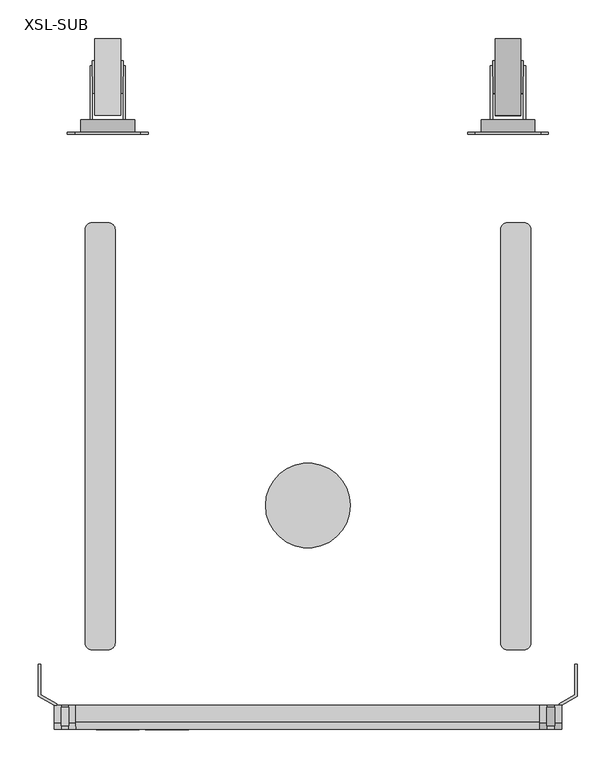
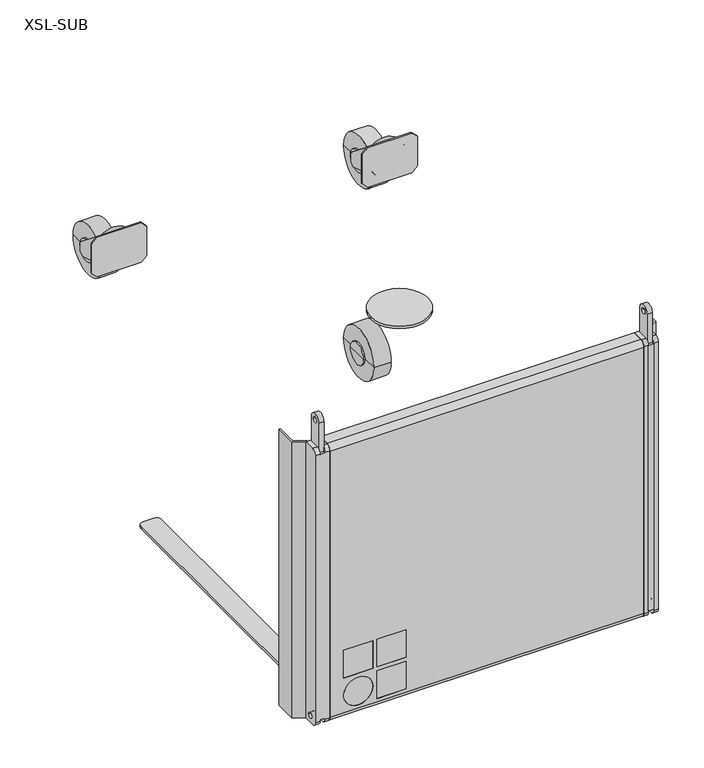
"""IFC4 building model written with IfcOpenShell, lengths in millimetres: proxy geometry, d&b SL-Series XSL-SUB : XSL-SUB."""

from ifc_helpers import new_model, si_unit, point, frame, frame_2d, origin, origin_with_axes, place, context, project, spatial, polyline, circle_curve, trimmed, segment, composite_curve, outline, extrude, source, transform, mapped, element, save
from ifc_brep_helpers import plane_surface, cylinder_surface, revolved_surface, advanced_brep


def xsl_sub_8213218d(model_context):
    return source(origin(), model_context, "Body", "SolidModel", [
        advanced_brep(
        [(2743.3232422, 736.9067763, 49.9678867), (2743.3232422, 836.9067763, 49.9678867), (2776.6767578, 836.9067763, 49.9678867), (2776.6767578, 736.9067763, 49.9678867), (2743.3232422, 765.493179, 49.9678867), (2743.3232422, 808.3203735, 49.9678867), (2740.0, 765.493179, 49.9678867), (2740.0, 808.3203735, 49.9678867), (2740.0, 786.9067763, 49.9678867), (2780.0, 765.493179, 49.9678867), (2780.0, 808.3203735, 49.9678867), (2780.0, 786.9067763, 49.9678867), (2776.6767578, 765.493179, 49.9678867), (2776.6767578, 808.3203735, 49.9678867)],
        [
            (0, 1, circle_curve(frame((2743.3232422, 786.9067763, 49.9678867), z_axis=(1.0, 0.0, 0.0), x_axis=(0.0, 1.0, 0.0)), 50.0)),
            (1, 2),
            (2, 3, circle_curve(frame((2776.6767578, 786.9067763, 49.9678867), z_axis=(-1.0, 0.0, 0.0), x_axis=(0.0, 1.0, 0.0)), 50.0)),
            (3, 0),
            (1, 0, circle_curve(frame((2743.3232422, 786.9067763, 49.9678867), z_axis=(1.0, 0.0, 0.0), x_axis=(0.0, 1.0, 0.0)), 50.0)),
            (3, 2, circle_curve(frame((2776.6767578, 786.9067763, 49.9678867), z_axis=(-1.0, 0.0, 0.0), x_axis=(0.0, 1.0, 0.0)), 50.0)),
            (4, 5, circle_curve(frame((2743.3232422, 786.9067763, 49.9678867), z_axis=(1.0, 0.0, 0.0), x_axis=(0.0, 1.0, 0.0)), 21.4135972)),
            (5, 1),
            (0, 4),
            (5, 4, circle_curve(frame((2743.3232422, 786.9067763, 49.9678867), z_axis=(1.0, 0.0, 0.0), x_axis=(0.0, 1.0, 0.0)), 21.4135972)),
            (6, 7, circle_curve(frame((2740.0, 786.9067763, 49.9678867), z_axis=(1.0, 0.0, 0.0), x_axis=(0.0, 1.0, 0.0)), 21.4135972)),
            (7, 5),
            (4, 6),
            (7, 6, circle_curve(frame((2740.0, 786.9067763, 49.9678867), z_axis=(1.0, 0.0, 0.0), x_axis=(0.0, 1.0, 0.0)), 21.4135972)),
            (8, 7),
            (6, 8),
            (9, 10, circle_curve(frame((2780.0, 786.9067763, 49.9678867), z_axis=(1.0, 0.0, 0.0), x_axis=(0.0, 1.0, 0.0)), 21.4135972)),
            (10, 11),
            (11, 9),
            (10, 9, circle_curve(frame((2780.0, 786.9067763, 49.9678867), z_axis=(1.0, 0.0, 0.0), x_axis=(0.0, 1.0, 0.0)), 21.4135972)),
            (12, 13, circle_curve(frame((2776.6767578, 786.9067763, 49.9678867), z_axis=(1.0, 0.0, 0.0), x_axis=(0.0, 1.0, 0.0)), 21.4135972)),
            (13, 10),
            (9, 12),
            (13, 12, circle_curve(frame((2776.6767578, 786.9067763, 49.9678867), z_axis=(1.0, 0.0, 0.0), x_axis=(0.0, 1.0, 0.0)), 21.4135972)),
            (2, 13),
            (12, 3),
        ],
        [
            cylinder_surface(frame((2717.0567457, 786.9067763, 49.9678867), z_axis=(-1.0, 0.0, 0.0), x_axis=(0.0, 1.0, 0.0)), 50.0),
            plane_surface(frame((2743.3232422, 786.9067763, 49.9678867), z_axis=(-1.0, 0.0, 0.0), x_axis=(0.0, 1.0, 0.0))),
            cylinder_surface(frame((2717.0567457, 786.9067763, 49.9678867), z_axis=(-1.0, 0.0, 0.0), x_axis=(0.0, 1.0, 0.0)), 21.4135972),
            plane_surface(frame((2740.0, 786.9067763, 49.9678867), z_axis=(-1.0, 0.0, 0.0), x_axis=(0.0, 1.0, 0.0))),
            plane_surface(frame((2780.0, 786.9067763, 49.9678867), z_axis=(1.0, 0.0, 0.0), x_axis=(0.0, 1.0, 0.0))),
            plane_surface(frame((2776.6767578, 786.9067763, 49.9678867), z_axis=(1.0, 0.0, 0.0), x_axis=(0.0, 1.0, 0.0))),
        ],
        [
            (0, [[1, 2, 3, 4]]),
            (0, [[5, -4, 6, -2]]),
            (1, [[7, 8, -1, 9]]),
            (1, [[10, -9, -5, -8]]),
            (2, [[11, 12, -7, 13]]),
            (2, [[14, -13, -10, -12]]),
            (3, [[15, -11, 16]]),
            (3, [[-16, -14, -15]]),
            (4, [[17, 18, 19]]),
            (4, [[20, -19, -18]]),
            (2, [[21, 22, -17, 23]]),
            (2, [[24, -23, -20, -22]]),
            (5, [[-3, 25, -21, 26]]),
            (5, [[-6, -26, -24, -25]]),
        ],
    ),
        advanced_brep(
        [(2275.0, 731.2505973, 480.499962), (2263.0, 731.2505973, 454.1181501), (2263.0, 731.2505973, 506.5781491), (2260.0, 731.2505973, 506.5781491), (2260.0, 731.2505973, 451.7771488), (2220.0, 731.2505973, 451.7771488), (2220.0, 731.2505973, 506.5781491), (2217.0, 731.2505973, 506.5781491), (2217.0, 731.2505973, 454.1181501), (2205.0, 731.2505973, 480.499962), (2205.0, 715.2505973, 480.499962), (2217.0, 715.2505973, 454.1181501), (2217.0, 715.2505973, 445.67524), (2220.0, 715.2505973, 445.67524), (2220.0, 715.2505973, 451.7771488), (2260.0, 715.2505973, 451.7771488), (2260.0, 715.2505973, 445.67524), (2263.0, 715.2505973, 445.67524), (2263.0, 715.2505973, 454.1181501), (2275.0, 715.2505973, 480.499962), (2263.0, 729.9505973, 445.67524), (2263.0, 794.4505973, 425.499962), (2263.0, 801.4505973, 432.499962), (2263.0, 801.4505973, 450.6264244), (2260.0, 801.4505973, 450.6264244), (2260.0, 801.4505973, 432.499962), (2260.0, 794.4505973, 425.499962), (2260.0, 729.9505973, 445.67524), (2217.0, 801.4505973, 450.6264244), (2217.0, 801.4505973, 432.499962), (2217.0, 794.4505973, 425.499962), (2217.0, 729.9505973, 445.67524), (2220.0, 729.9505973, 445.67524), (2220.0, 794.4505973, 425.499962), (2220.0, 801.4505973, 432.499962), (2220.0, 801.4505973, 450.6264244)],
        [
            (0, 1, circle_curve(frame((2240.0, 731.2505973, 480.499962), z_axis=(0.0, 1.0, 0.0), x_axis=(1.0, 0.0, 0.0)), 35.0)),
            (1, 2),
            (2, 3),
            (3, 4),
            (4, 5, circle_curve(frame((2240.0, 731.2505973, 480.499962), z_axis=(0.0, 1.0, 0.0), x_axis=(1.0, 0.0, 0.0)), 35.0)),
            (5, 6),
            (6, 7),
            (7, 8),
            (8, 9, circle_curve(frame((2240.0, 731.2505973, 480.499962), z_axis=(0.0, 1.0, 0.0), x_axis=(1.0, 0.0, 0.0)), 35.0)),
            (9, 0, circle_curve(frame((2240.0, 731.2505973, 480.499962), z_axis=(0.0, 1.0, 0.0), x_axis=(1.0, 0.0, 0.0)), 35.0)),
            (10, 11, circle_curve(frame((2240.0, 715.2505973, 480.499962), z_axis=(0.0, -1.0, 0.0), x_axis=(1.0, 0.0, 0.0)), 35.0)),
            (11, 12),
            (12, 13),
            (13, 14),
            (14, 15, circle_curve(frame((2240.0, 715.2505973, 480.499962), z_axis=(0.0, -1.0, 0.0), x_axis=(1.0, 0.0, 0.0)), 35.0)),
            (15, 16),
            (16, 17),
            (17, 18),
            (18, 19, circle_curve(frame((2240.0, 715.2505973, 480.499962), z_axis=(0.0, -1.0, 0.0), x_axis=(1.0, 0.0, 0.0)), 35.0)),
            (19, 10, circle_curve(frame((2240.0, 715.2505973, 480.499962), z_axis=(0.0, -1.0, 0.0), x_axis=(1.0, 0.0, 0.0)), 35.0)),
            (8, 11),
            (10, 9),
            (14, 5),
            (4, 15),
            (18, 1),
            (0, 19),
            (17, 20),
            (20, 21),
            (21, 22),
            (22, 23),
            (23, 2),
            (3, 24),
            (24, 25),
            (25, 26),
            (26, 27),
            (27, 16),
            (23, 24),
            (22, 25),
            (21, 26),
            (20, 27),
            (7, 28),
            (28, 29),
            (29, 30),
            (30, 31),
            (31, 12),
            (13, 32),
            (32, 33),
            (33, 34),
            (34, 35),
            (35, 6),
            (35, 28),
            (34, 29),
            (33, 30),
            (32, 31),
        ],
        [
            plane_surface(frame((2275.0, 731.2505973, 480.499962), z_axis=(0.0, 1.0, 0.0), x_axis=(0.0, 0.0, 1.0))),
            plane_surface(frame((2275.0, 715.2505973, 480.499962), z_axis=(0.0, -1.0, 0.0), x_axis=(0.0, 0.0, -1.0))),
            cylinder_surface(frame((2240.0, 715.2505973, 480.499962), z_axis=(0.0, 1.0, 0.0), x_axis=(1.0, 0.0, 0.0)), 35.0),
            plane_surface(frame((2263.0, 785.1202866, 463.6422228), z_axis=(1.0000000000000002, 0.0, 0.0), x_axis=(0.0, 0.7819992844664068, -0.6232793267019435))),
            plane_surface(frame((2260.0, 785.1202866, 463.6422228), z_axis=(-1.0000000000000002, 0.0, 0.0), x_axis=(0.0, -0.7819992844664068, 0.6232793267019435))),
            plane_surface(frame((2263.0, 731.2505973, 506.5781491), z_axis=(0.0, 0.6232793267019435, 0.7819992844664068), x_axis=(-1.0, 0.0, 0.0))),
            plane_surface(frame((2263.0, 801.4505973, 450.6264244), z_axis=(0.0, 1.0, 0.0), x_axis=(-1.0, 0.0, 0.0))),
            plane_surface(frame((2263.0, 801.4505973, 432.499962), z_axis=(0.0, 0.7071067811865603, -0.7071067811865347), x_axis=(-1.0, 0.0, 0.0))),
            plane_surface(frame((2263.0, 794.4505973, 425.499962), z_axis=(0.0, -0.29853148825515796, -0.9543997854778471), x_axis=(-1.0, 0.0, 0.0))),
            plane_surface(frame((2263.0, 729.9505973, 445.67524), z_axis=(0.0, 0.0, -1.0), x_axis=(-1.0, 0.0, 0.0))),
            plane_surface(frame((2217.0, 731.2505973, 506.5781491), z_axis=(-1.0, 0.0, 0.0), x_axis=(0.0, -1.0, 0.0))),
            plane_surface(frame((2220.0, 731.2505973, 506.5781491), z_axis=(1.0, 0.0, 0.0), x_axis=(0.0, 1.0, 0.0))),
            plane_surface(frame((2217.0, 801.4505973, 450.6264244), z_axis=(0.0, 0.6232793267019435, 0.7819992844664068), x_axis=(1.0, 0.0, 0.0))),
            plane_surface(frame((2217.0, 801.4505973, 432.499962), z_axis=(0.0, 1.0, 0.0), x_axis=(1.0, 0.0, 0.0))),
            plane_surface(frame((2217.0, 794.4505973, 425.499962), z_axis=(0.0, 0.7071067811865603, -0.7071067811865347), x_axis=(1.0, 0.0, 0.0))),
            plane_surface(frame((2217.0, 729.9505973, 445.67524), z_axis=(0.0, -0.29853148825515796, -0.9543997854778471), x_axis=(1.0, 0.0, 0.0))),
            plane_surface(frame((2217.0, 715.2505973, 445.67524), z_axis=(0.0, 0.0, -1.0), x_axis=(1.0, 0.0, 0.0))),
        ],
        [
            (0, [[1, 2, 3, 4, 5, 6, 7, 8, 9, 10]]),
            (1, [[11, 12, 13, 14, 15, 16, 17, 18, 19, 20]]),
            (2, [[-9, 21, -11, 22]]),
            (2, [[-15, 23, -5, 24]]),
            (2, [[-19, 25, -1, 26]]),
            (2, [[-22, -20, -26, -10]]),
            (3, [[-2, -25, -18, 27, 28, 29, 30, 31]]),
            (4, [[-16, -24, -4, 32, 33, 34, 35, 36]]),
            (5, [[37, -32, -3, -31]]),
            (6, [[38, -33, -37, -30]]),
            (7, [[39, -34, -38, -29]]),
            (8, [[40, -35, -39, -28]]),
            (9, [[-17, -36, -40, -27]]),
            (10, [[-12, -21, -8, 41, 42, 43, 44, 45]]),
            (11, [[-6, -23, -14, 46, 47, 48, 49, 50]]),
            (12, [[-7, -50, 51, -41]]),
            (13, [[-51, -49, 52, -42]]),
            (14, [[-52, -48, 53, -43]]),
            (15, [[-53, -47, 54, -44]]),
            (16, [[-54, -46, -13, -45]]),
        ],
    ),
        extrude(outline(polyline([(520.5, 2197.500038), (510.499962, 2187.5), (450.499962, 2187.5), (440.499924, 2197.500038), (440.499924, 2282.499962), (450.499962, 2292.5), (510.499962, 2292.5), (520.5, 2282.499962), (520.5, 2197.500038)])), frame((0.0, 712.2505973, 0.0), z_axis=(0.0, 1.0, 0.0), x_axis=(0.0, 0.0, 1.0)), (0.0, 0.0, 1.0), 3.0),
        advanced_brep(
        [(2256.6767578, 736.9067763, 440.9678867), (2223.3232422, 736.9067763, 440.9678867), (2223.3232422, 836.9067763, 440.9678867), (2256.6767578, 836.9067763, 440.9678867), (2256.6767578, 765.493179, 440.9678867), (2256.6767578, 808.3203735, 440.9678867), (2260.0, 765.493179, 440.9678867), (2260.0, 808.3203735, 440.9678867), (2260.0, 786.9067763, 440.9678867), (2220.0, 765.493179, 440.9678867), (2220.0, 786.9067763, 440.9678867), (2220.0, 808.3203735, 440.9678867), (2223.3232422, 765.493179, 440.9678867), (2223.3232422, 808.3203735, 440.9678867)],
        [
            (0, 1),
            (1, 2, circle_curve(frame((2223.3232422, 786.9067763, 440.9678867), z_axis=(1.0, 0.0, 0.0), x_axis=(0.0, 1.0, 0.0)), 50.0)),
            (2, 3),
            (3, 0, circle_curve(frame((2256.6767578, 786.9067763, 440.9678867), z_axis=(-1.0, 0.0, 0.0), x_axis=(0.0, 1.0, 0.0)), 50.0)),
            (2, 1, circle_curve(frame((2223.3232422, 786.9067763, 440.9678867), z_axis=(1.0, 0.0, 0.0), x_axis=(0.0, 1.0, 0.0)), 50.0)),
            (0, 3, circle_curve(frame((2256.6767578, 786.9067763, 440.9678867), z_axis=(-1.0, 0.0, 0.0), x_axis=(0.0, 1.0, 0.0)), 50.0)),
            (4, 0),
            (3, 5),
            (5, 4, circle_curve(frame((2256.6767578, 786.9067763, 440.9678867), z_axis=(-1.0, 0.0, 0.0), x_axis=(0.0, 1.0, 0.0)), 21.4135972)),
            (4, 5, circle_curve(frame((2256.6767578, 786.9067763, 440.9678867), z_axis=(-1.0, 0.0, 0.0), x_axis=(0.0, 1.0, 0.0)), 21.4135972)),
            (6, 4),
            (5, 7),
            (7, 6, circle_curve(frame((2260.0, 786.9067763, 440.9678867), z_axis=(-1.0, 0.0, 0.0), x_axis=(0.0, 1.0, 0.0)), 21.4135972)),
            (6, 7, circle_curve(frame((2260.0, 786.9067763, 440.9678867), z_axis=(-1.0, 0.0, 0.0), x_axis=(0.0, 1.0, 0.0)), 21.4135972)),
            (8, 6),
            (7, 8),
            (9, 10),
            (10, 11),
            (11, 9, circle_curve(frame((2220.0, 786.9067763, 440.9678867), z_axis=(-1.0, 0.0, 0.0), x_axis=(0.0, 1.0, 0.0)), 21.4135972)),
            (9, 11, circle_curve(frame((2220.0, 786.9067763, 440.9678867), z_axis=(-1.0, 0.0, 0.0), x_axis=(0.0, 1.0, 0.0)), 21.4135972)),
            (12, 9),
            (11, 13),
            (13, 12, circle_curve(frame((2223.3232422, 786.9067763, 440.9678867), z_axis=(-1.0, 0.0, 0.0), x_axis=(0.0, 1.0, 0.0)), 21.4135972)),
            (12, 13, circle_curve(frame((2223.3232422, 786.9067763, 440.9678867), z_axis=(-1.0, 0.0, 0.0), x_axis=(0.0, 1.0, 0.0)), 21.4135972)),
            (1, 12),
            (13, 2),
        ],
        [
            cylinder_surface(frame((2282.9432543, 786.9067763, 440.9678867), z_axis=(1.0, 0.0, 0.0), x_axis=(0.0, 1.0, 0.0)), 50.0),
            plane_surface(frame((2256.6767578, 786.9067763, 440.9678867), z_axis=(1.0, 0.0, 0.0), x_axis=(0.0, 1.0, 0.0))),
            cylinder_surface(frame((2282.9432543, 786.9067763, 440.9678867), z_axis=(1.0, 0.0, 0.0), x_axis=(0.0, 1.0, 0.0)), 21.4135972),
            plane_surface(frame((2260.0, 786.9067763, 440.9678867), z_axis=(1.0, 0.0, 0.0), x_axis=(0.0, 1.0, 0.0))),
            plane_surface(frame((2220.0, 786.9067763, 440.9678867), z_axis=(-1.0, 0.0, 0.0), x_axis=(0.0, 1.0, 0.0))),
            plane_surface(frame((2223.3232422, 786.9067763, 440.9678867), z_axis=(-1.0, 0.0, 0.0), x_axis=(0.0, 1.0, 0.0))),
        ],
        [
            (0, [[1, 2, 3, 4]]),
            (0, [[-3, 5, -1, 6]]),
            (1, [[7, -4, 8, 9]]),
            (1, [[-8, -6, -7, 10]]),
            (2, [[11, -9, 12, 13]]),
            (2, [[-12, -10, -11, 14]]),
            (3, [[15, -13, 16]]),
            (3, [[-16, -14, -15]]),
            (4, [[17, 18, 19]]),
            (4, [[-18, -17, 20]]),
            (2, [[21, -19, 22, 23]]),
            (2, [[-22, -20, -21, 24]]),
            (5, [[25, -23, 26, -2]]),
            (5, [[-26, -24, -25, -5]]),
        ],
    ),
        advanced_brep(
        [(2725.0, 731.2505973, 480.499962), (2795.0, 731.2505973, 480.499962), (2783.0, 731.2505973, 454.1181501), (2783.0, 731.2505973, 506.5781491), (2780.0, 731.2505973, 506.5781491), (2780.0, 731.2505973, 451.7771488), (2740.0, 731.2505973, 451.7771488), (2740.0, 731.2505973, 506.5781491), (2737.0, 731.2505973, 506.5781491), (2737.0, 731.2505973, 454.1181501), (2795.0, 715.2505973, 480.499962), (2725.0, 715.2505973, 480.499962), (2737.0, 715.2505973, 454.1181501), (2737.0, 715.2505973, 445.67524), (2740.0, 715.2505973, 445.67524), (2740.0, 715.2505973, 451.7771488), (2780.0, 715.2505973, 451.7771488), (2780.0, 715.2505973, 445.67524), (2783.0, 715.2505973, 445.67524), (2783.0, 715.2505973, 454.1181501), (2737.0, 801.4505973, 450.6264244), (2737.0, 801.4505973, 432.499962), (2737.0, 794.4505973, 425.499962), (2737.0, 729.9505973, 445.67524), (2740.0, 729.9505973, 445.67524), (2740.0, 794.4505973, 425.499962), (2740.0, 801.4505973, 432.499962), (2740.0, 801.4505973, 450.6264244), (2783.0, 729.9505973, 445.67524), (2783.0, 794.4505973, 425.499962), (2783.0, 801.4505973, 432.499962), (2783.0, 801.4505973, 450.6264244), (2780.0, 801.4505973, 450.6264244), (2780.0, 801.4505973, 432.499962), (2780.0, 794.4505973, 425.499962), (2780.0, 729.9505973, 445.67524)],
        [
            (0, 1, circle_curve(frame((2760.0, 731.2505973, 480.499962), z_axis=(0.0, 1.0, 0.0), x_axis=(-1.0, 0.0, 0.0)), 35.0)),
            (1, 2, circle_curve(frame((2760.0, 731.2505973, 480.499962), z_axis=(0.0, 1.0, 0.0), x_axis=(-1.0, 0.0, 0.0)), 35.0)),
            (2, 3),
            (3, 4),
            (4, 5),
            (5, 6, circle_curve(frame((2760.0, 731.2505973, 480.499962), z_axis=(0.0, 1.0, 0.0), x_axis=(-1.0, 0.0, 0.0)), 35.0)),
            (6, 7),
            (7, 8),
            (8, 9),
            (9, 0, circle_curve(frame((2760.0, 731.2505973, 480.499962), z_axis=(0.0, 1.0, 0.0), x_axis=(-1.0, 0.0, 0.0)), 35.0)),
            (10, 11, circle_curve(frame((2760.0, 715.2505973, 480.499962), z_axis=(0.0, -1.0, 0.0), x_axis=(-1.0, 0.0, 0.0)), 35.0)),
            (11, 12, circle_curve(frame((2760.0, 715.2505973, 480.499962), z_axis=(0.0, -1.0, 0.0), x_axis=(-1.0, 0.0, 0.0)), 35.0)),
            (12, 13),
            (13, 14),
            (14, 15),
            (15, 16, circle_curve(frame((2760.0, 715.2505973, 480.499962), z_axis=(0.0, -1.0, 0.0), x_axis=(-1.0, 0.0, 0.0)), 35.0)),
            (16, 17),
            (17, 18),
            (18, 19),
            (19, 10, circle_curve(frame((2760.0, 715.2505973, 480.499962), z_axis=(0.0, -1.0, 0.0), x_axis=(-1.0, 0.0, 0.0)), 35.0)),
            (1, 10),
            (19, 2),
            (15, 6),
            (5, 16),
            (11, 0),
            (9, 12),
            (8, 20),
            (20, 21),
            (21, 22),
            (22, 23),
            (23, 13),
            (14, 24),
            (24, 25),
            (25, 26),
            (26, 27),
            (27, 7),
            (27, 20),
            (26, 21),
            (25, 22),
            (24, 23),
            (18, 28),
            (28, 29),
            (29, 30),
            (30, 31),
            (31, 3),
            (4, 32),
            (32, 33),
            (33, 34),
            (34, 35),
            (35, 17),
            (31, 32),
            (30, 33),
            (29, 34),
            (28, 35),
        ],
        [
            plane_surface(frame((2725.0, 731.2505973, 480.499962), z_axis=(0.0, 1.0, 0.0), x_axis=(0.0, 0.0, 1.0))),
            plane_surface(frame((2725.0, 715.2505973, 480.499962), z_axis=(0.0, -1.0, 0.0), x_axis=(0.0, 0.0, -1.0))),
            cylinder_surface(frame((2760.0, 715.2505973, 480.499962), z_axis=(0.0, 1.0, 0.0), x_axis=(-1.0, 0.0, 0.0)), 35.0),
            plane_surface(frame((2737.0, 785.1202866, 463.6422228), z_axis=(-1.0000000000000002, 0.0, 0.0), x_axis=(0.0, 0.7819992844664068, -0.6232793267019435))),
            plane_surface(frame((2740.0, 785.1202866, 463.6422228), z_axis=(1.0000000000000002, 0.0, 0.0), x_axis=(0.0, -0.7819992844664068, 0.6232793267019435))),
            plane_surface(frame((2737.0, 731.2505973, 506.5781491), z_axis=(0.0, 0.6232793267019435, 0.7819992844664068), x_axis=(1.0, 0.0, 0.0))),
            plane_surface(frame((2737.0, 801.4505973, 450.6264244), z_axis=(0.0, 1.0, 0.0), x_axis=(1.0, 0.0, 0.0))),
            plane_surface(frame((2737.0, 801.4505973, 432.499962), z_axis=(0.0, 0.7071067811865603, -0.7071067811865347), x_axis=(1.0, 0.0, 0.0))),
            plane_surface(frame((2737.0, 794.4505973, 425.499962), z_axis=(0.0, -0.29853148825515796, -0.9543997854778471), x_axis=(1.0, 0.0, 0.0))),
            plane_surface(frame((2737.0, 729.9505973, 445.67524), z_axis=(0.0, 0.0, -1.0), x_axis=(1.0, 0.0, 0.0))),
            plane_surface(frame((2783.0, 731.2505973, 506.5781491), z_axis=(1.0, 0.0, 0.0), x_axis=(0.0, -1.0, 0.0))),
            plane_surface(frame((2780.0, 731.2505973, 506.5781491), z_axis=(-1.0, 0.0, 0.0), x_axis=(0.0, 1.0, 0.0))),
            plane_surface(frame((2783.0, 801.4505973, 450.6264244), z_axis=(0.0, 0.6232793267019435, 0.7819992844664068), x_axis=(-1.0, 0.0, 0.0))),
            plane_surface(frame((2783.0, 801.4505973, 432.499962), z_axis=(0.0, 1.0, 0.0), x_axis=(-1.0, 0.0, 0.0))),
            plane_surface(frame((2783.0, 794.4505973, 425.499962), z_axis=(0.0, 0.7071067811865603, -0.7071067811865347), x_axis=(-1.0, 0.0, 0.0))),
            plane_surface(frame((2783.0, 729.9505973, 445.67524), z_axis=(0.0, -0.29853148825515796, -0.9543997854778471), x_axis=(-1.0, 0.0, 0.0))),
            plane_surface(frame((2783.0, 715.2505973, 445.67524), z_axis=(0.0, 0.0, -1.0), x_axis=(-1.0, 0.0, 0.0))),
        ],
        [
            (0, [[1, 2, 3, 4, 5, 6, 7, 8, 9, 10]]),
            (1, [[11, 12, 13, 14, 15, 16, 17, 18, 19, 20]]),
            (2, [[21, -20, 22, -2]]),
            (2, [[23, -6, 24, -16]]),
            (2, [[25, -10, 26, -12]]),
            (2, [[-1, -25, -11, -21]]),
            (3, [[27, 28, 29, 30, 31, -13, -26, -9]]),
            (4, [[32, 33, 34, 35, 36, -7, -23, -15]]),
            (5, [[-27, -8, -36, 37]]),
            (6, [[-28, -37, -35, 38]]),
            (7, [[-29, -38, -34, 39]]),
            (8, [[-30, -39, -33, 40]]),
            (9, [[-31, -40, -32, -14]]),
            (10, [[41, 42, 43, 44, 45, -3, -22, -19]]),
            (11, [[46, 47, 48, 49, 50, -17, -24, -5]]),
            (12, [[-45, 51, -46, -4]]),
            (13, [[-44, 52, -47, -51]]),
            (14, [[-43, 53, -48, -52]]),
            (15, [[-42, 54, -49, -53]]),
            (16, [[-41, -18, -50, -54]]),
        ],
    ),
        extrude(outline(polyline([(520.5, 2802.499962), (520.5, 2717.500038), (510.499962, 2707.5), (450.499962, 2707.5), (440.499924, 2717.500038), (440.499924, 2802.499962), (450.499962, 2812.5), (510.499962, 2812.5), (520.5, 2802.499962)])), frame((0.0, 712.2505973, 0.0), z_axis=(0.0, 1.0, 0.0), x_axis=(0.0, 0.0, 1.0)), (0.0, 0.0, 1.0), 3.0),
        advanced_brep(
        [(2743.3232422, 736.9067763, 440.9678867), (2743.3232422, 836.9067763, 440.9678867), (2776.6767578, 836.9067763, 440.9678867), (2776.6767578, 736.9067763, 440.9678867), (2743.3232422, 765.493179, 440.9678867), (2743.3232422, 808.3203735, 440.9678867), (2740.0, 765.493179, 440.9678867), (2740.0, 808.3203735, 440.9678867), (2740.0, 786.9067763, 440.9678867), (2780.0, 765.493179, 440.9678867), (2780.0, 808.3203735, 440.9678867), (2780.0, 786.9067763, 440.9678867), (2776.6767578, 765.493179, 440.9678867), (2776.6767578, 808.3203735, 440.9678867)],
        [
            (0, 1, circle_curve(frame((2743.3232422, 786.9067763, 440.9678867), z_axis=(1.0, 0.0, 0.0), x_axis=(0.0, 1.0, 0.0)), 50.0)),
            (1, 2),
            (2, 3, circle_curve(frame((2776.6767578, 786.9067763, 440.9678867), z_axis=(-1.0, 0.0, 0.0), x_axis=(0.0, 1.0, 0.0)), 50.0)),
            (3, 0),
            (1, 0, circle_curve(frame((2743.3232422, 786.9067763, 440.9678867), z_axis=(1.0, 0.0, 0.0), x_axis=(0.0, 1.0, 0.0)), 50.0)),
            (3, 2, circle_curve(frame((2776.6767578, 786.9067763, 440.9678867), z_axis=(-1.0, 0.0, 0.0), x_axis=(0.0, 1.0, 0.0)), 50.0)),
            (4, 5, circle_curve(frame((2743.3232422, 786.9067763, 440.9678867), z_axis=(1.0, 0.0, 0.0), x_axis=(0.0, 1.0, 0.0)), 21.4135972)),
            (5, 1),
            (0, 4),
            (5, 4, circle_curve(frame((2743.3232422, 786.9067763, 440.9678867), z_axis=(1.0, 0.0, 0.0), x_axis=(0.0, 1.0, 0.0)), 21.4135972)),
            (6, 7, circle_curve(frame((2740.0, 786.9067763, 440.9678867), z_axis=(1.0, 0.0, 0.0), x_axis=(0.0, 1.0, 0.0)), 21.4135972)),
            (7, 5),
            (4, 6),
            (7, 6, circle_curve(frame((2740.0, 786.9067763, 440.9678867), z_axis=(1.0, 0.0, 0.0), x_axis=(0.0, 1.0, 0.0)), 21.4135972)),
            (8, 7),
            (6, 8),
            (9, 10, circle_curve(frame((2780.0, 786.9067763, 440.9678867), z_axis=(1.0, 0.0, 0.0), x_axis=(0.0, 1.0, 0.0)), 21.4135972)),
            (10, 11),
            (11, 9),
            (10, 9, circle_curve(frame((2780.0, 786.9067763, 440.9678867), z_axis=(1.0, 0.0, 0.0), x_axis=(0.0, 1.0, 0.0)), 21.4135972)),
            (12, 13, circle_curve(frame((2776.6767578, 786.9067763, 440.9678867), z_axis=(1.0, 0.0, 0.0), x_axis=(0.0, 1.0, 0.0)), 21.4135972)),
            (13, 10),
            (9, 12),
            (13, 12, circle_curve(frame((2776.6767578, 786.9067763, 440.9678867), z_axis=(1.0, 0.0, 0.0), x_axis=(0.0, 1.0, 0.0)), 21.4135972)),
            (2, 13),
            (12, 3),
        ],
        [
            cylinder_surface(frame((2717.0567457, 786.9067763, 440.9678867), z_axis=(-1.0, 0.0, 0.0), x_axis=(0.0, 1.0, 0.0)), 50.0),
            plane_surface(frame((2743.3232422, 786.9067763, 440.9678867), z_axis=(-1.0, 0.0, 0.0), x_axis=(0.0, 1.0, 0.0))),
            cylinder_surface(frame((2717.0567457, 786.9067763, 440.9678867), z_axis=(-1.0, 0.0, 0.0), x_axis=(0.0, 1.0, 0.0)), 21.4135972),
            plane_surface(frame((2740.0, 786.9067763, 440.9678867), z_axis=(-1.0, 0.0, 0.0), x_axis=(0.0, 1.0, 0.0))),
            plane_surface(frame((2780.0, 786.9067763, 440.9678867), z_axis=(1.0, 0.0, 0.0), x_axis=(0.0, 1.0, 0.0))),
            plane_surface(frame((2776.6767578, 786.9067763, 440.9678867), z_axis=(1.0, 0.0, 0.0), x_axis=(0.0, 1.0, 0.0))),
        ],
        [
            (0, [[1, 2, 3, 4]]),
            (0, [[5, -4, 6, -2]]),
            (1, [[7, 8, -1, 9]]),
            (1, [[10, -9, -5, -8]]),
            (2, [[11, 12, -7, 13]]),
            (2, [[14, -13, -10, -12]]),
            (3, [[15, -11, 16]]),
            (3, [[-16, -14, -15]]),
            (4, [[17, 18, 19]]),
            (4, [[20, -19, -18]]),
            (2, [[21, 22, -17, 23]]),
            (2, [[24, -23, -20, -22]]),
            (5, [[-3, 25, -21, 26]]),
            (5, [[-6, -26, -24, -25]]),
        ],
    ),
        extrude(outline(polyline([(2810.5, -60.7494027), (2810.5, -29.2494027), (2820.5, -29.2494027), (2820.5, -60.7494027), (2810.5, -60.7494027)])), frame((0.0, 0.0, 16.6), z_axis=(0.0, 0.0, 1.0), x_axis=(1.0, 0.0, 0.0)), (0.0, 0.0, 1.0), 538.4),
        extrude(outline(composite_curve([segment(polyline([(-29.2494027, 565.0), (-29.2494027, 5.0), (-51.7494027, 5.0)]), True, "CONTINUOUS"), segment(trimmed(circle_curve(frame_2d((-51.7494027, 14.0)), 9.0), [point((-51.7494027, 5.0))], [point((-60.7494027, 14.0))], False, "CARTESIAN"), True, "CONTINUOUS"), segment(polyline([(-60.7494027, 14.0), (-60.7494027, 556.0)]), True, "CONTINUOUS"), segment(trimmed(circle_curve(frame_2d((-51.7494027, 556.0)), 9.0), [point((-60.7494027, 556.0))], [point((-51.7494027, 565.0))], False, "CARTESIAN"), True, "CONTINUOUS"), segment(polyline([(-51.7494027, 565.0), (-29.2494027, 565.0)]), True, "CONTINUOUS")], self_intersect=False)), frame((2801.5, 0.0, 0.0), z_axis=(1.0, 0.0, 0.0), x_axis=(0.0, 1.0, 0.0)), (0.0, 0.0, 1.0), 9.0),
        extrude(outline(composite_curve([segment(trimmed(circle_curve(frame_2d((-43.9994027, 615.6033696)), 12.0), [point((-55.9994027, 615.6033696))], [point((-31.9994027, 615.6033696))], False, "CARTESIAN"), True, "CONTINUOUS"), segment(polyline([(-31.9994027, 615.6033696), (-31.9994027, 555.0), (-55.9994027, 555.0), (-55.9994027, 615.6033696)]), True, "CONTINUOUS")], self_intersect=False), holes=[composite_curve([segment(trimmed(circle_curve(frame_2d((-43.9994027, 615.6033696)), 5.15), [point((-49.1494027, 615.6033696))], [point((-38.8494027, 615.6033696))], True, "CARTESIAN"), True, "CONTINUOUS"), segment(trimmed(circle_curve(frame_2d((-43.9994027, 615.6033696)), 5.15), [point((-38.8494027, 615.6033696))], [point((-49.1494027, 615.6033696))], True, "CARTESIAN"), True, "CONTINUOUS")], self_intersect=False)]), frame((2810.5, 0.0, 0.0), z_axis=(1.0, 0.0, 0.0), x_axis=(0.0, 1.0, 0.0)), (0.0, 0.0, 1.0), 10.0),
        extrude(outline(composite_curve([segment(polyline([(-29.2494027, 565.0), (-29.2494027, 5.0), (-51.7494027, 5.0)]), True, "CONTINUOUS"), segment(trimmed(circle_curve(frame_2d((-51.7494027, 14.0)), 9.0), [point((-51.7494027, 5.0))], [point((-60.7494027, 14.0))], False, "CARTESIAN"), True, "CONTINUOUS"), segment(polyline([(-60.7494027, 14.0), (-60.7494027, 556.0)]), True, "CONTINUOUS"), segment(trimmed(circle_curve(frame_2d((-51.7494027, 556.0)), 9.0), [point((-60.7494027, 556.0))], [point((-51.7494027, 565.0))], False, "CARTESIAN"), True, "CONTINUOUS"), segment(polyline([(-51.7494027, 565.0), (-29.2494027, 565.0)]), True, "CONTINUOUS")], self_intersect=False), holes=[composite_curve([segment(trimmed(circle_curve(frame_2d((-43.9994027, 18.5163859)), 5.2), [point((-49.1994027, 18.5163859))], [point((-38.7994027, 18.5163859))], True, "CARTESIAN"), True, "CONTINUOUS"), segment(trimmed(circle_curve(frame_2d((-43.9994027, 18.5163859)), 5.2), [point((-38.7994027, 18.5163859))], [point((-49.1994027, 18.5163859))], True, "CARTESIAN"), True, "CONTINUOUS")], self_intersect=False)]), frame((2820.5, 0.0, 0.0), z_axis=(1.0, 0.0, 0.0), x_axis=(0.0, 1.0, 0.0)), (0.0, 0.0, 1.0), 9.0),
        extrude(outline(polyline([(2153.0, 24.2505973), (2153.0, -15.6816714), (2173.5, -27.5173519), (2173.5, -29.2494027), (2170.5, -29.2494027), (2150.0, -17.4137222), (2150.0, 24.2505973), (2153.0, 24.2505973)])), frame((0.0, 0.0, 5.0), z_axis=(0.0, 0.0, 1.0), x_axis=(1.0, 0.0, 0.0)), (0.0, 0.0, 1.0), 560.0),
        extrude(outline(polyline([(2847.0, 24.2505973), (2850.0, 24.2505973), (2850.0, -17.4137222), (2829.5, -29.2494027), (2826.5, -29.2494027), (2826.5, -27.5173519), (2847.0, -15.6816714), (2847.0, 24.2505973)])), frame((0.0, 0.0, 5.0), z_axis=(0.0, 0.0, 1.0), x_axis=(1.0, 0.0, 0.0)), (0.0, 0.0, 1.0), 560.0),
        advanced_brep(
        [(2281.0, -50.7494027, 141.5), (2225.0, -50.7494027, 141.5), (2225.0, -50.7494027, 85.5), (2281.0, -50.7494027, 85.5), (2345.0, -50.7494027, 141.5), (2289.0, -50.7494027, 141.5), (2289.0, -50.7494027, 85.5), (2345.0, -50.7494027, 85.5), (2345.0, -50.7494027, 77.5), (2289.0, -50.7494027, 77.5), (2289.0, -50.7494027, 21.5), (2345.0, -50.7494027, 21.5), (2225.0, -50.7494027, 49.5), (2281.0, -50.7494027, 49.5), (2281.0, -60.7494027, 85.5), (2281.0, -60.7494027, 141.5), (2225.0, -60.7494027, 85.5), (2225.0, -60.7494027, 141.5), (2345.0, -60.7494027, 85.5), (2345.0, -60.7494027, 141.5), (2289.0, -60.7494027, 85.5), (2289.0, -60.7494027, 141.5), (2345.0, -60.7494027, 21.5), (2345.0, -60.7494027, 77.5), (2289.0, -60.7494027, 21.5), (2289.0, -60.7494027, 77.5), (2281.0, -60.7494027, 49.5), (2225.0, -60.7494027, 49.5), (2801.5, -29.2494027, 5.0), (2801.5, -29.2494027, 565.0), (2801.5, -50.7494027, 565.0), (2801.5, -60.7494027, 555.0), (2801.5, -60.7494027, 15.0), (2801.5, -50.7494027, 5.0), (2198.5, -29.2494027, 5.0), (2198.5, -50.7494027, 5.0), (2198.5, -60.7494027, 15.0), (2198.5, -60.7494027, 555.0), (2198.5, -50.7494027, 565.0), (2198.5, -29.2494027, 565.0)],
        [
            (0, 1),
            (1, 2),
            (2, 3),
            (3, 0),
            (4, 5),
            (5, 6),
            (6, 7),
            (7, 4),
            (8, 9),
            (9, 10),
            (10, 11),
            (11, 8),
            (12, 13, circle_curve(frame((2253.0, -50.7494027, 49.5), z_axis=(0.0, -1.0, 0.0), x_axis=(1.0, 0.0, 0.0)), 28.0)),
            (13, 12, circle_curve(frame((2253.0, -50.7494027, 49.5), z_axis=(0.0, -1.0, 0.0), x_axis=(1.0, 0.0, 0.0)), 28.0)),
            (3, 14),
            (14, 15),
            (15, 0),
            (2, 16),
            (16, 14),
            (1, 17),
            (17, 16),
            (15, 17),
            (7, 18),
            (18, 19),
            (19, 4),
            (6, 20),
            (20, 18),
            (5, 21),
            (21, 20),
            (19, 21),
            (11, 22),
            (22, 23),
            (23, 8),
            (10, 24),
            (24, 22),
            (9, 25),
            (25, 24),
            (23, 25),
            (13, 26),
            (26, 27, circle_curve(frame((2253.0, -60.7494027, 49.5), z_axis=(0.0, -1.0, 0.0), x_axis=(1.0, 0.0, 0.0)), 28.0)),
            (27, 12),
            (27, 26, circle_curve(frame((2253.0, -60.7494027, 49.5), z_axis=(0.0, -1.0, 0.0), x_axis=(1.0, 0.0, 0.0)), 28.0)),
            (28, 29),
            (29, 30),
            (30, 31, circle_curve(frame((2801.5, -50.7494027, 555.0), z_axis=(1.0, 0.0, 0.0), x_axis=(0.0, 1.0, 0.0)), 10.0)),
            (31, 32),
            (32, 33, circle_curve(frame((2801.5, -50.7494027, 15.0), z_axis=(1.0, 0.0, 0.0), x_axis=(0.0, 1.0, 0.0)), 10.0)),
            (33, 28),
            (34, 35),
            (35, 36, circle_curve(frame((2198.5, -50.7494027, 15.0), z_axis=(-1.0, 0.0, 0.0), x_axis=(0.0, 1.0, 0.0)), 10.0)),
            (36, 37),
            (37, 38, circle_curve(frame((2198.5, -50.7494027, 555.0), z_axis=(-1.0, 0.0, 0.0), x_axis=(0.0, 1.0, 0.0)), 10.0)),
            (38, 39),
            (39, 34),
            (28, 34),
            (39, 29),
            (38, 30),
            (37, 31),
            (36, 32),
            (35, 33),
        ],
        [
            plane_surface(frame((2281.0, -50.7494027, 131.0), z_axis=(0.0, -1.0, 0.0), x_axis=(0.0, 0.0, -1.0))),
            plane_surface(frame((2281.0, -50.7494027, 141.5), z_axis=(-1.0, 0.0, 0.0), x_axis=(0.0, -1.0, 0.0))),
            plane_surface(frame((2281.0, -50.7494027, 85.5), z_axis=(0.0, 0.0, 1.0), x_axis=(0.0, -1.0, 0.0))),
            plane_surface(frame((2225.0, -50.7494027, 85.5), z_axis=(1.0, 0.0, 0.0), x_axis=(0.0, -1.0, 0.0))),
            plane_surface(frame((2225.0, -50.7494027, 141.5), z_axis=(0.0, 0.0, -1.0), x_axis=(0.0, -1.0, 0.0))),
            plane_surface(frame((2345.0, -50.7494027, 141.5), z_axis=(-1.0, 0.0, 0.0), x_axis=(0.0, -1.0, 0.0))),
            plane_surface(frame((2345.0, -50.7494027, 85.5), z_axis=(0.0, 0.0, 1.0), x_axis=(0.0, -1.0, 0.0))),
            plane_surface(frame((2289.0, -50.7494027, 85.5), z_axis=(1.0, 0.0, 0.0), x_axis=(0.0, -1.0, 0.0))),
            plane_surface(frame((2289.0, -50.7494027, 141.5), z_axis=(0.0, 0.0, -1.0), x_axis=(0.0, -1.0, 0.0))),
            plane_surface(frame((2345.0, -50.7494027, 77.5), z_axis=(-1.0, 0.0, 0.0), x_axis=(0.0, -1.0, 0.0))),
            plane_surface(frame((2345.0, -50.7494027, 21.5), z_axis=(0.0, 0.0, 1.0), x_axis=(0.0, -1.0, 0.0))),
            plane_surface(frame((2289.0, -50.7494027, 21.5), z_axis=(1.0, 0.0, 0.0), x_axis=(0.0, -1.0, 0.0))),
            plane_surface(frame((2289.0, -50.7494027, 77.5), z_axis=(0.0, 0.0, -1.0), x_axis=(0.0, -1.0, 0.0))),
            revolved_surface(polyline([(2281.0, -50.7494027, 49.5), (2281.0, -60.7494027, 49.5)]), (2253.0, -60.7494027, 49.5), (0.0, 1.0, 0.0)),
            plane_surface(frame((2801.5, -29.2494027, 89.9836141), z_axis=(1.0, 0.0, 0.0), x_axis=(0.0, 0.0, 1.0))),
            plane_surface(frame((2198.5, -29.2494027, 89.9836141), z_axis=(-1.0, 0.0, 0.0), x_axis=(0.0, 0.0, -1.0))),
            plane_surface(frame((2801.5, -29.2494027, 5.0), z_axis=(0.0, 1.0, 0.0), x_axis=(-1.0, 0.0, 0.0))),
            plane_surface(frame((2801.5, -29.2494027, 565.0), z_axis=(0.0, 0.0, 1.0), x_axis=(-1.0, 0.0, 0.0))),
            cylinder_surface(frame((2198.5, -50.7494027, 555.0), z_axis=(1.0, 0.0, 0.0), x_axis=(0.0, 1.0, 0.0)), 10.0),
            plane_surface(frame((2801.5, -60.7494027, 555.0), z_axis=(0.0, -1.0, 0.0), x_axis=(-1.0, 0.0, 0.0))),
            cylinder_surface(frame((2198.5, -50.7494027, 15.0), z_axis=(1.0, 0.0, 0.0), x_axis=(0.0, 1.0, 0.0)), 10.0),
            plane_surface(frame((2801.5, -50.7494027, 5.0), z_axis=(0.0, 0.0, -1.0), x_axis=(-1.0, 0.0, 0.0))),
        ],
        [
            (0, [[1, 2, 3, 4]]),
            (0, [[5, 6, 7, 8]]),
            (0, [[9, 10, 11, 12]]),
            (0, [[13, 14]]),
            (1, [[-4, 15, 16, 17]]),
            (2, [[-3, 18, 19, -15]]),
            (3, [[-2, 20, 21, -18]]),
            (4, [[-1, -17, 22, -20]]),
            (5, [[-8, 23, 24, 25]]),
            (6, [[-7, 26, 27, -23]]),
            (7, [[-6, 28, 29, -26]]),
            (8, [[-5, -25, 30, -28]]),
            (9, [[-12, 31, 32, 33]]),
            (10, [[-11, 34, 35, -31]]),
            (11, [[-10, 36, 37, -34]]),
            (12, [[-9, -33, 38, -36]]),
            (13, [[-14, 39, 40, 41]]),
            (13, [[-13, -41, 42, -39]]),
            (14, [[43, 44, 45, 46, 47, 48]]),
            (15, [[49, 50, 51, 52, 53, 54]]),
            (16, [[-43, 55, -54, 56]]),
            (17, [[-44, -56, -53, 57]]),
            (18, [[-45, -57, -52, 58]]),
            (19, [[-46, -58, -51, 59], [-16, -19, -21, -22], [-24, -27, -29, -30], [-32, -35, -37, -38], [-40, -42]]),
            (20, [[-47, -59, -50, 60]]),
            (21, [[-48, -60, -49, -55]]),
        ],
    ),
        extrude(outline(composite_curve([segment(trimmed(circle_curve(frame_2d((2240.5, 51.7505973)), 9.0), [point((2249.5, 51.7505973))], [point((2240.5, 42.7505973))], False, "CARTESIAN"), True, "CONTINUOUS"), segment(polyline([(2240.5, 42.7505973), (2219.5, 42.7505973)]), True, "CONTINUOUS"), segment(trimmed(circle_curve(frame_2d((2219.5, 51.7505973)), 9.0), [point((2219.5, 42.7505973))], [point((2210.5, 51.7505973))], False, "CARTESIAN"), True, "CONTINUOUS"), segment(polyline([(2210.5, 51.7505973), (2210.5, 588.7503532)]), True, "CONTINUOUS"), segment(trimmed(circle_curve(frame_2d((2219.5, 588.7503532)), 9.0), [point((2210.5, 588.7503532))], [point((2219.5, 597.7503532))], False, "CARTESIAN"), True, "CONTINUOUS"), segment(polyline([(2219.5, 597.7503532), (2240.5, 597.7503532)]), True, "CONTINUOUS"), segment(trimmed(circle_curve(frame_2d((2240.5, 588.7503532)), 9.0), [point((2240.5, 597.7503532))], [point((2249.5, 588.7503532))], False, "CARTESIAN"), True, "CONTINUOUS"), segment(polyline([(2249.5, 588.7503532), (2249.5, 51.7505973)]), True, "CONTINUOUS")], self_intersect=False)), origin_with_axes(), (0.0, 0.0, 1.0), 5.0),
        extrude(outline(composite_curve([segment(polyline([(2750.5, 51.7505973), (2750.5, 588.7503532)]), True, "CONTINUOUS"), segment(trimmed(circle_curve(frame_2d((2759.5, 588.7503532)), 9.0), [point((2750.5, 588.7503532))], [point((2759.5, 597.7503532))], False, "CARTESIAN"), True, "CONTINUOUS"), segment(polyline([(2759.5, 597.7503532), (2780.5, 597.7503532)]), True, "CONTINUOUS"), segment(trimmed(circle_curve(frame_2d((2780.5, 588.7503532)), 9.0), [point((2780.5, 597.7503532))], [point((2789.5, 588.7503532))], False, "CARTESIAN"), True, "CONTINUOUS"), segment(polyline([(2789.5, 588.7503532), (2789.5, 51.7505973)]), True, "CONTINUOUS"), segment(trimmed(circle_curve(frame_2d((2780.5, 51.7505973)), 9.0), [point((2789.5, 51.7505973))], [point((2780.5, 42.7505973))], False, "CARTESIAN"), True, "CONTINUOUS"), segment(polyline([(2780.5, 42.7505973), (2759.5, 42.7505973)]), True, "CONTINUOUS"), segment(trimmed(circle_curve(frame_2d((2759.5, 51.7505973)), 9.0), [point((2759.5, 42.7505973))], [point((2750.5, 51.7505973))], False, "CARTESIAN"), True, "CONTINUOUS")], self_intersect=False)), origin_with_axes(), (0.0, 0.0, 1.0), 5.0),
        advanced_brep(
        [(2198.5, -29.2494027, 565.0), (2198.5, -51.7494027, 565.0), (2198.5, -60.7494027, 556.0), (2198.5, -60.7494027, 14.0), (2198.5, -51.7494027, 5.0), (2198.5, -29.2494027, 5.0), (2189.5, -29.2494027, 5.0), (2189.5, -51.7494027, 5.0), (2189.5, -60.7494027, 14.0), (2189.5, -60.7494027, 16.6), (2189.5, -29.2494027, 16.6), (2189.5, -60.7494027, 556.0), (2189.5, -51.7494027, 565.0), (2189.5, -29.2494027, 565.0), (2189.5, -29.2494027, 555.0), (2189.5, -60.7494027, 555.0), (2179.5, -60.7494027, 555.0), (2179.5, -60.7494027, 556.0), (2170.5, -60.7494027, 556.0), (2170.5, -60.7494027, 14.0), (2179.5, -60.7494027, 14.0), (2179.5, -60.7494027, 16.6), (2179.5, -29.2494027, 16.6), (2179.5, -29.2494027, 5.0), (2170.5, -29.2494027, 5.0), (2170.5, -29.2494027, 565.0), (2179.5, -29.2494027, 565.0), (2179.5, -29.2494027, 555.0), (2179.5, -48.8333933, 16.6), (2179.5, -39.1654121, 16.6), (2179.5, -51.7494027, 565.0), (2179.5, -51.7494027, 5.0), (2170.5, -51.7494027, 5.0), (2170.5, -51.7494027, 565.0), (2170.5, -49.1994027, 18.5163859), (2170.5, -38.7994027, 18.5163859), (2179.5, -38.7994027, 18.5163859), (2179.5, -49.1994027, 18.5163859)],
        [
            (0, 1),
            (1, 2, circle_curve(frame((2198.5, -51.7494027, 556.0), z_axis=(1.0, 0.0, 0.0), x_axis=(0.0, 1.0, 0.0)), 9.0)),
            (2, 3),
            (3, 4, circle_curve(frame((2198.5, -51.7494027, 14.0), z_axis=(1.0, 0.0, 0.0), x_axis=(0.0, 1.0, 0.0)), 9.0)),
            (4, 5),
            (5, 0),
            (6, 7),
            (7, 8, circle_curve(frame((2189.5, -51.7494027, 14.0), z_axis=(-1.0, 0.0, 0.0), x_axis=(0.0, 1.0, 0.0)), 9.0)),
            (8, 9),
            (9, 10),
            (10, 6),
            (11, 12, circle_curve(frame((2189.5, -51.7494027, 556.0), z_axis=(-1.0, 0.0, 0.0), x_axis=(0.0, 1.0, 0.0)), 9.0)),
            (12, 13),
            (13, 14),
            (14, 15),
            (15, 11),
            (0, 13),
            (12, 1),
            (11, 2),
            (15, 16),
            (16, 17),
            (17, 18),
            (18, 19),
            (19, 20),
            (20, 21),
            (21, 9),
            (8, 3),
            (7, 4),
            (6, 5),
            (10, 22),
            (22, 23),
            (23, 24),
            (24, 25),
            (25, 26),
            (26, 27),
            (27, 14),
            (27, 16),
            (21, 28),
            (28, 29),
            (29, 22),
            (26, 30),
            (30, 17, circle_curve(frame((2179.5, -51.7494027, 556.0), z_axis=(1.0, 0.0, 0.0), x_axis=(0.0, 1.0, 0.0)), 9.0)),
            (20, 31, circle_curve(frame((2179.5, -51.7494027, 14.0), z_axis=(1.0, 0.0, 0.0), x_axis=(0.0, 1.0, 0.0)), 9.0)),
            (31, 23),
            (29, 28, circle_curve(frame((2179.5, -43.9994027, 18.5163859), z_axis=(-1.0, 0.0, 0.0), x_axis=(0.0, 1.0, 0.0)), 5.2)),
            (24, 32),
            (32, 19, circle_curve(frame((2170.5, -51.7494027, 14.0), z_axis=(-1.0, 0.0, 0.0), x_axis=(0.0, 1.0, 0.0)), 9.0)),
            (18, 33, circle_curve(frame((2170.5, -51.7494027, 556.0), z_axis=(-1.0, 0.0, 0.0), x_axis=(0.0, 1.0, 0.0)), 9.0)),
            (33, 25),
            (34, 35, circle_curve(frame((2170.5, -43.9994027, 18.5163859), z_axis=(1.0, 0.0, 0.0), x_axis=(0.0, 1.0, 0.0)), 5.2)),
            (35, 34, circle_curve(frame((2170.5, -43.9994027, 18.5163859), z_axis=(1.0, 0.0, 0.0), x_axis=(0.0, 1.0, 0.0)), 5.2)),
            (33, 30),
            (31, 32),
            (35, 36),
            (36, 37, circle_curve(frame((2179.5, -43.9994027, 18.5163859), z_axis=(1.0, 0.0, 0.0), x_axis=(0.0, 1.0, 0.0)), 5.2)),
            (37, 34),
            (37, 28, circle_curve(frame((2179.5, -43.9994027, 18.5163859), z_axis=(1.0, 0.0, 0.0), x_axis=(0.0, 1.0, 0.0)), 5.2)),
            (29, 36, circle_curve(frame((2179.5, -43.9994027, 18.5163859), z_axis=(1.0, 0.0, 0.0), x_axis=(0.0, 1.0, 0.0)), 5.2)),
        ],
        [
            plane_surface(frame((2198.5, -51.2077891, 565.0), z_axis=(1.0, 0.0, 0.0), x_axis=(0.0, -1.0, 0.0))),
            plane_surface(frame((2189.5, -51.2077891, 565.0), z_axis=(-1.0, 0.0, 0.0), x_axis=(0.0, 1.0, 0.0))),
            plane_surface(frame((2198.5, -29.2494027, 565.0), z_axis=(0.0, 0.0, 1.0), x_axis=(-1.0, 0.0, 0.0))),
            cylinder_surface(frame((2189.5, -51.7494027, 556.0), z_axis=(1.0, 0.0, 0.0), x_axis=(0.0, 1.0, 0.0)), 9.0),
            plane_surface(frame((2198.5, -60.7494027, 556.0), z_axis=(0.0, -1.0, 0.0), x_axis=(-1.0, 0.0, 0.0))),
            cylinder_surface(frame((2189.5, -51.7494027, 14.0), z_axis=(1.0, 0.0, 0.0), x_axis=(0.0, 1.0, 0.0)), 9.0),
            plane_surface(frame((2198.5, -51.7494027, 5.0), z_axis=(0.0, 0.0, -1.0), x_axis=(-1.0, 0.0, 0.0))),
            plane_surface(frame((2198.5, -29.2494027, 5.0), z_axis=(0.0, 1.0, 0.0), x_axis=(-1.0, 0.0, 0.0))),
            plane_surface(frame((2189.5, -29.2494027, 555.0), z_axis=(0.0, 0.0, 1.0), x_axis=(-1.0, 0.0, 0.0))),
            plane_surface(frame((2189.5, -60.7494027, 16.6), z_axis=(0.0, 0.0, -1.0), x_axis=(-1.0, 0.0, 0.0))),
            plane_surface(frame((2179.5, -51.2077891, 565.0), z_axis=(1.0, 0.0, 0.0), x_axis=(0.0, -1.0, 0.0))),
            plane_surface(frame((2170.5, -51.2077891, 565.0), z_axis=(-1.0, 0.0, 0.0), x_axis=(0.0, 1.0, 0.0))),
            plane_surface(frame((2179.5, -29.2494027, 565.0), z_axis=(0.0, 0.0, 1.0), x_axis=(-1.0, 0.0, 0.0))),
            plane_surface(frame((2179.5, -51.7494027, 5.0), z_axis=(0.0, 0.0, -1.0), x_axis=(-1.0, 0.0, 0.0))),
            revolved_surface(polyline([(2170.5, -38.799402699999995, 18.5163859), (2179.5, -38.799402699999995, 18.5163859)]), (2500.0, -43.9994027, 18.5163859), (-1.0, 0.0, 0.0)),
            cylinder_surface(frame((2170.5, -51.7494027, 556.0), z_axis=(1.0, 0.0, 0.0), x_axis=(0.0, 1.0, 0.0)), 9.0),
            cylinder_surface(frame((2170.5, -51.7494027, 14.0), z_axis=(1.0, 0.0, 0.0), x_axis=(0.0, 1.0, 0.0)), 9.0),
            plane_surface(frame((2179.5, -60.7494027, 97.5281973), z_axis=(-1.0, 0.0, 0.0), x_axis=(0.0, 0.0, 1.0))),
        ],
        [
            (0, [[1, 2, 3, 4, 5, 6]]),
            (1, [[7, 8, 9, 10, 11]]),
            (1, [[12, 13, 14, 15, 16]]),
            (2, [[-1, 17, -13, 18]]),
            (3, [[-2, -18, -12, 19]]),
            (4, [[-3, -19, -16, 20, 21, 22, 23, 24, 25, 26, -9, 27]]),
            (5, [[-4, -27, -8, 28]]),
            (6, [[-5, -28, -7, 29]]),
            (7, [[-6, -29, -11, 30, 31, 32, 33, 34, 35, 36, -14, -17]]),
            (8, [[-20, -15, -36, 37]]),
            (9, [[-26, 38, 39, 40, -30, -10]]),
            (10, [[41, 42, -21, -37, -35]]),
            (10, [[43, 44, -31, -40, 45, -38, -25]]),
            (11, [[-33, 46, 47, -23, 48, 49], [50, 51]]),
            (12, [[-41, -34, -49, 52]]),
            (13, [[-44, 53, -46, -32]]),
            (14, [[-51, 54, 55, 56]]),
            (14, [[-50, -56, 57, -45, 58, -54]]),
            (15, [[-42, -52, -48, -22]]),
            (16, [[-43, -24, -47, -53]]),
            (17, [[-39, -57, -55, -58]]),
        ],
    ),
        extrude(outline(composite_curve([segment(trimmed(circle_curve(frame_2d((-43.9994027, 615.6033696)), 12.0), [point((-55.9994027, 615.6033696))], [point((-31.9994027, 615.6033696))], False, "CARTESIAN"), True, "CONTINUOUS"), segment(polyline([(-31.9994027, 615.6033696), (-31.9994027, 555.0), (-55.9994027, 555.0), (-55.9994027, 615.6033696)]), True, "CONTINUOUS")], self_intersect=False), holes=[composite_curve([segment(trimmed(circle_curve(frame_2d((-43.9994027, 615.6033696)), 5.15), [point((-49.1494027, 615.6033696))], [point((-38.8494027, 615.6033696))], True, "CARTESIAN"), True, "CONTINUOUS"), segment(trimmed(circle_curve(frame_2d((-43.9994027, 615.6033696)), 5.15), [point((-38.8494027, 615.6033696))], [point((-49.1494027, 615.6033696))], True, "CARTESIAN"), True, "CONTINUOUS")], self_intersect=False)]), frame((2179.5, 0.0, 0.0), z_axis=(1.0, 0.0, 0.0), x_axis=(0.0, 1.0, 0.0)), (0.0, 0.0, 1.0), 10.0),
        extrude(outline(polyline([(2225.0, -50.7494027), (2281.0, -50.7494027), (2281.0, -60.7494027), (2225.0, -60.7494027), (2225.0, -50.7494027)])), frame((0.0, 0.0, 85.5), z_axis=(0.0, 0.0, 1.0), x_axis=(1.0, 0.0, 0.0)), (0.0, 0.0, 1.0), 56.0),
        extrude(outline(polyline([(2289.0, -50.7494027), (2345.0, -50.7494027), (2345.0, -60.7494027), (2289.0, -60.7494027), (2289.0, -50.7494027)])), frame((0.0, 0.0, 85.5), z_axis=(0.0, 0.0, 1.0), x_axis=(1.0, 0.0, 0.0)), (0.0, 0.0, 1.0), 56.0),
        extrude(outline(polyline([(2289.0, -50.7494027), (2345.0, -50.7494027), (2345.0, -60.7494027), (2289.0, -60.7494027), (2289.0, -50.7494027)])), frame((0.0, 0.0, 21.5), z_axis=(0.0, 0.0, 1.0), x_axis=(1.0, 0.0, 0.0)), (0.0, 0.0, 1.0), 56.0),
        extrude(outline(composite_curve([segment(trimmed(circle_curve(frame_2d((49.5, 2253.0)), 28.0), [point((49.5, 2225.0))], [point((49.5, 2281.0))], False, "CARTESIAN"), True, "CONTINUOUS"), segment(trimmed(circle_curve(frame_2d((49.5, 2253.0)), 28.0), [point((49.5, 2281.0))], [point((49.5, 2225.0))], False, "CARTESIAN"), True, "CONTINUOUS")], self_intersect=False)), frame((0.0, -60.7494027, 0.0), z_axis=(0.0, 1.0, 0.0), x_axis=(0.0, 0.0, 1.0)), (0.0, 0.0, 1.0), 10.0),
        extrude(outline(composite_curve([segment(trimmed(circle_curve(frame_2d((2500.0, 230.2504752)), 55.0), [point((2445.0, 230.2504752))], [point((2555.0, 230.2504752))], False, "CARTESIAN"), True, "CONTINUOUS"), segment(trimmed(circle_curve(frame_2d((2500.0, 230.2504752)), 55.0), [point((2555.0, 230.2504752))], [point((2445.0, 230.2504752))], False, "CARTESIAN"), True, "CONTINUOUS")], self_intersect=False)), frame((0.0, 0.0, 560.0), z_axis=(0.0, 0.0, 1.0), x_axis=(1.0, 0.0, 0.0)), (0.0, 0.0, 1.0), 5.0),
    ])


if __name__ == "__main__":
    model = new_model("IFC4")
    model_context = context("Model", 3, world=origin())
    ifc_project = project(units=[si_unit("LENGTHUNIT", "METRE", prefix="MILLI")], contexts=[model_context])
    site = spatial("IfcSite", under=ifc_project)
    building = spatial("IfcBuilding", under=site)
    placement = place(None, origin())
    xsl_sub_shape = xsl_sub_8213218d(model_context)
    element("IfcBuildingElementProxy", 1, Name="d&b SL-Series XSL-SUB : XSL-SUB", ObjectType="d&b SL-Series XSL-SUB : XSL-SUB", at=placement, inside=building, context=model_context, shape_type="MappedRepresentation", body=[
        mapped(xsl_sub_shape, transform((0.0, 0.0, 0.0), x_axis=(1.0, 0.0, 0.0), y_axis=(0.0, 1.0, 0.0), z_axis=(0.0, 0.0, 1.0))),
    ])
    save(model, "model.ifc")
